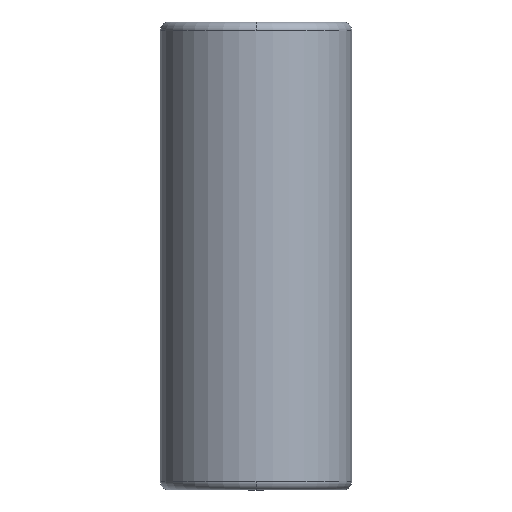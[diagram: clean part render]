
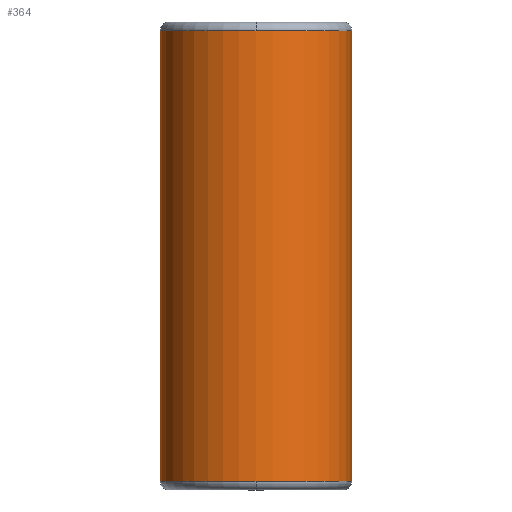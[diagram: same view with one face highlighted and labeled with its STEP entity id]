
A CAD part, front view. The second image highlights one B-rep face of the part: STEP entity #364.
In plain terms, the highlighted cylindrical face has radius 22.494 mm (diameter 44.988 mm), a partial arc.
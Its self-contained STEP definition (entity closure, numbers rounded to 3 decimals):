
#269=CARTESIAN_POINT('',(0.0,-22.494,108.0));
#270=VERTEX_POINT('',#269);
#296=CARTESIAN_POINT('',(-22.494,0.,108.0));
#297=VERTEX_POINT('',#296);
#305=CARTESIAN_POINT('',(0.0,0.,108.0));
#306=DIRECTION('',(0.0,0.0,1.0));
#307=DIRECTION('',(1.0,0.0,0.0));
#308=AXIS2_PLACEMENT_3D('',#305,#306,#307);
#309=CIRCLE('',#308,22.494);
#310=EDGE_CURVE('',#297,#270,#309,.T.);
#315=CARTESIAN_POINT('',(0.0,0.,55.0));
#316=DIRECTION('',(0.0,0.,1.0));
#317=DIRECTION('',(1.0,0.0,0.0));
#318=AXIS2_PLACEMENT_3D('',#315,#316,#317);
#319=CYLINDRICAL_SURFACE('',#318,22.494);
#320=CARTESIAN_POINT('',(22.494,0.,108.0));
#321=VERTEX_POINT('',#320);
#322=CARTESIAN_POINT('',(22.494,0.,2.));
#323=VERTEX_POINT('',#322);
#324=CARTESIAN_POINT('',(22.494,0.,108.0));
#325=DIRECTION('',(0.0,0.0,-1.0));
#326=VECTOR('',#325,106.0);
#327=LINE('',#324,#326);
#328=EDGE_CURVE('',#321,#323,#327,.T.);
#329=ORIENTED_EDGE('',*,*,#328,.F.);
#330=CARTESIAN_POINT('',(0.0,0.,108.0));
#331=DIRECTION('',(0.0,0.0,1.0));
#332=DIRECTION('',(1.0,0.0,0.0));
#333=AXIS2_PLACEMENT_3D('',#330,#331,#332);
#334=CIRCLE('',#333,22.494);
#335=EDGE_CURVE('',#270,#321,#334,.T.);
#336=ORIENTED_EDGE('',*,*,#335,.F.);
#337=ORIENTED_EDGE('',*,*,#310,.F.);
#338=CARTESIAN_POINT('',(-22.494,0.,2.0));
#339=VERTEX_POINT('',#338);
#340=CARTESIAN_POINT('',(-22.494,0.,108.0));
#341=DIRECTION('',(0.0,0.0,-1.0));
#342=VECTOR('',#341,106.0);
#343=LINE('',#340,#342);
#344=EDGE_CURVE('',#297,#339,#343,.T.);
#345=ORIENTED_EDGE('',*,*,#344,.T.);
#346=CARTESIAN_POINT('',(0.0,-22.494,2.));
#347=VERTEX_POINT('',#346);
#348=CARTESIAN_POINT('',(0.0,0.,2.0));
#349=DIRECTION('',(0.0,0.0,1.0));
#350=DIRECTION('',(1.0,0.0,0.0));
#351=AXIS2_PLACEMENT_3D('',#348,#349,#350);
#352=CIRCLE('',#351,22.494);
#353=EDGE_CURVE('',#339,#347,#352,.T.);
#354=ORIENTED_EDGE('',*,*,#353,.T.);
#355=CARTESIAN_POINT('',(0.0,0.,2.0));
#356=DIRECTION('',(0.0,0.0,1.0));
#357=DIRECTION('',(1.0,0.0,0.0));
#358=AXIS2_PLACEMENT_3D('',#355,#356,#357);
#359=CIRCLE('',#358,22.494);
#360=EDGE_CURVE('',#347,#323,#359,.T.);
#361=ORIENTED_EDGE('',*,*,#360,.T.);
#362=EDGE_LOOP('',(#329,#336,#337,#345,#354,#361));
#363=FACE_OUTER_BOUND('',#362,.T.);
#364=ADVANCED_FACE('',(#363),#319,.T.);
